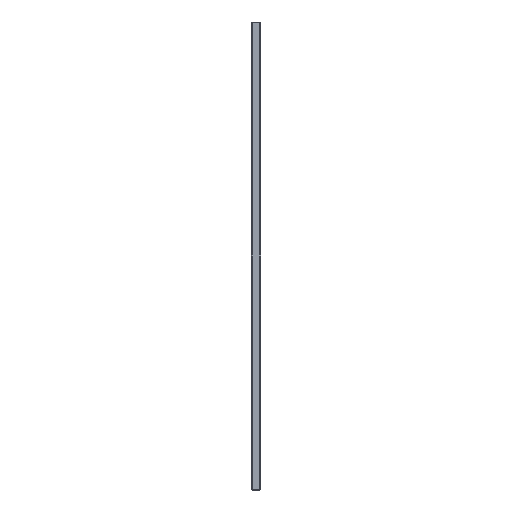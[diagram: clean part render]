
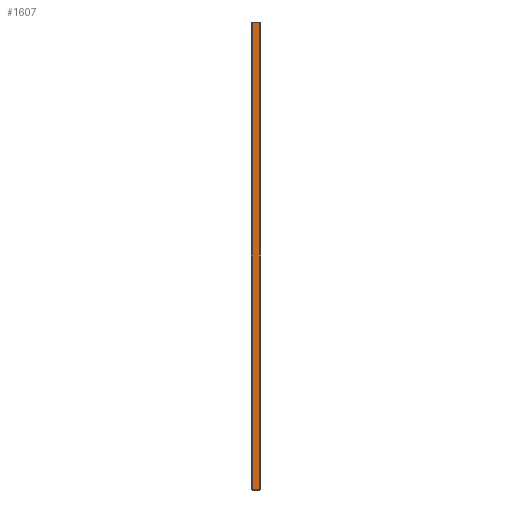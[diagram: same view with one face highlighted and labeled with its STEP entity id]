
A CAD part, left-side view. The second image highlights one B-rep face of the part: STEP entity #1607.
In plain terms, the highlighted planar face has unit normal (-1, 0, 0).
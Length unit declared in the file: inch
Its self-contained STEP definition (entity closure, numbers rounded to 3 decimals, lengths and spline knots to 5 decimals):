
#97 = EDGE_CURVE ( 'NONE', #767, #355, #1849, .T. ) ;
#100 = CARTESIAN_POINT ( 'NONE',  ( -14.6875, 0.05, -11.8125 ) ) ;
#139 = VECTOR ( 'NONE', #1826, 39.37008 ) ;
#158 = CARTESIAN_POINT ( 'NONE',  ( -14.6875, 0.45, 11.7625 ) ) ;
#256 = EDGE_CURVE ( 'NONE', #355, #1291, #1236, .T. ) ;
#355 = VERTEX_POINT ( 'NONE', #426 ) ;
#426 = CARTESIAN_POINT ( 'NONE',  ( -14.6875, 0.05, 11.7625 ) ) ;
#458 = EDGE_CURVE ( 'NONE', #1291, #1806, #1102, .T. ) ;
#583 = EDGE_CURVE ( 'NONE', #1806, #767, #1516, .T. ) ;
#656 = CARTESIAN_POINT ( 'NONE',  ( -14.6875, 0.45, -11.8125 ) ) ;
#725 = ORIENTED_EDGE ( 'NONE', *, *, #97, .T. ) ;
#767 = VERTEX_POINT ( 'NONE', #994 ) ;
#994 = CARTESIAN_POINT ( 'NONE',  ( -14.6875, 0.05, -11.7625 ) ) ;
#1069 = CARTESIAN_POINT ( 'NONE',  ( -14.6875, 0.5, -11.7625 ) ) ;
#1102 = LINE ( 'NONE', #656, #1231 ) ;
#1177 = CARTESIAN_POINT ( 'NONE',  ( -14.6875, 0.45, -11.7625 ) ) ;
#1231 = VECTOR ( 'NONE', #1636, 39.37008 ) ;
#1236 = LINE ( 'NONE', #1698, #139 ) ;
#1242 = DIRECTION ( 'NONE',  ( 0., 0., -1. ) ) ;
#1291 = VERTEX_POINT ( 'NONE', #158 ) ;
#1364 = CARTESIAN_POINT ( 'NONE',  ( -14.6875, 0.5, -11.8125 ) ) ;
#1375 = DIRECTION ( 'NONE',  ( 1., 0., 0. ) ) ;
#1469 = ORIENTED_EDGE ( 'NONE', *, *, #256, .T. ) ;
#1516 = LINE ( 'NONE', #1069, #1981 ) ;
#1542 = DIRECTION ( 'NONE',  ( 0., -1., 0. ) ) ;
#1607 = ADVANCED_FACE ( 'Placement Plane', ( #1985 ), #1989, .F. ) ;
#1636 = DIRECTION ( 'NONE',  ( 0., 0., -1. ) ) ;
#1698 = CARTESIAN_POINT ( 'NONE',  ( -14.6875, 0.5, 11.7625 ) ) ;
#1706 = VECTOR ( 'NONE', #1957, 39.37008 ) ;
#1762 = AXIS2_PLACEMENT_3D ( 'NONE', #1364, #1375, #1242 ) ;
#1806 = VERTEX_POINT ( 'NONE', #1177 ) ;
#1826 = DIRECTION ( 'NONE',  ( 0., 1., 0. ) ) ;
#1849 = LINE ( 'NONE', #100, #1706 ) ;
#1856 = EDGE_LOOP ( 'NONE', ( #1897, #1952, #725, #1469 ) ) ;
#1897 = ORIENTED_EDGE ( 'NONE', *, *, #458, .T. ) ;
#1952 = ORIENTED_EDGE ( 'NONE', *, *, #583, .T. ) ;
#1957 = DIRECTION ( 'NONE',  ( 0., 0., 1. ) ) ;
#1981 = VECTOR ( 'NONE', #1542, 39.37008 ) ;
#1985 = FACE_OUTER_BOUND ( 'NONE', #1856, .T. ) ;
#1989 = PLANE ( 'NONE',  #1762 ) ;
